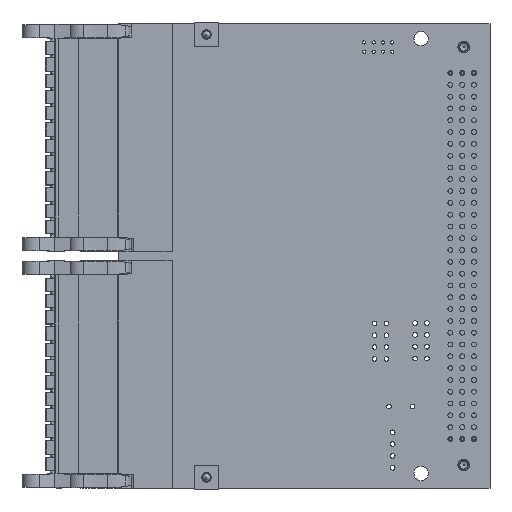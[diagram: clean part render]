
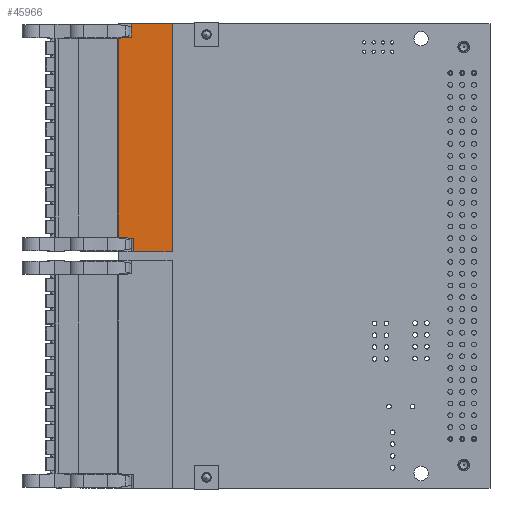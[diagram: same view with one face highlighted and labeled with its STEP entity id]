
A CAD part, top view. The second image highlights one B-rep face of the part: STEP entity #45966.
In plain terms, the highlighted planar face has unit normal (0, 0, 1).
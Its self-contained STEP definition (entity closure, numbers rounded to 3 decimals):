
#730 = ORIENTED_EDGE ( 'NONE', *, *, #1568, .T. ) ;
#1455 = VERTEX_POINT ( 'NONE', #12418 ) ;
#1568 = EDGE_CURVE ( 'NONE', #32402, #38106, #7299, .T. ) ;
#2464 = VERTEX_POINT ( 'NONE', #71715 ) ;
#2776 = VECTOR ( 'NONE', #71946, 1000. ) ;
#3896 = DIRECTION ( 'NONE',  ( 0.996, -0.087, 0. ) ) ;
#4434 = CARTESIAN_POINT ( 'NONE',  ( 3.3, 65.332, 12.4 ) ) ;
#5324 = VECTOR ( 'NONE', #28687, 1000. ) ;
#6519 = VECTOR ( 'NONE', #29115, 1000. ) ;
#6945 = CARTESIAN_POINT ( 'NONE',  ( 11.6, 50.954, 12.4 ) ) ;
#7299 = LINE ( 'NONE', #21867, #2776 ) ;
#7468 = VECTOR ( 'NONE', #68177, 1000. ) ;
#7613 = LINE ( 'NONE', #4434, #5324 ) ;
#8117 = CARTESIAN_POINT ( 'NONE',  ( -0.6, 99.954, 12.4 ) ) ;
#12418 = CARTESIAN_POINT ( 'NONE',  ( 11.6, 99.954, 12.4 ) ) ;
#18386 = CARTESIAN_POINT ( 'NONE',  ( 0., 54.054, 12.4 ) ) ;
#19114 = CARTESIAN_POINT ( 'NONE',  ( 3.3, 50.954, 12.4 ) ) ;
#19324 = EDGE_CURVE ( 'NONE', #69039, #76568, #89606, .T. ) ;
#19540 = CARTESIAN_POINT ( 'NONE',  ( 3.3, 53.765, 12.4 ) ) ;
#21867 = CARTESIAN_POINT ( 'NONE',  ( 2.8, 97.099, 12.4 ) ) ;
#24659 = ORIENTED_EDGE ( 'NONE', *, *, #33355, .T. ) ;
#25025 = DIRECTION ( 'NONE',  ( 0., -1., 0. ) ) ;
#25745 = LINE ( 'NONE', #8117, #6519 ) ;
#26396 = ORIENTED_EDGE ( 'NONE', *, *, #44087, .T. ) ;
#28687 = DIRECTION ( 'NONE',  ( 0., -1., 0. ) ) ;
#29115 = DIRECTION ( 'NONE',  ( -1., 0., 0. ) ) ;
#29621 = VECTOR ( 'NONE', #92610, 1000. ) ;
#30969 = EDGE_CURVE ( 'NONE', #1455, #2464, #25745, .T. ) ;
#31948 = CARTESIAN_POINT ( 'NONE',  ( 2.8, 65.332, 12.4 ) ) ;
#32402 = VERTEX_POINT ( 'NONE', #37822 ) ;
#32547 = ORIENTED_EDGE ( 'NONE', *, *, #66170, .T. ) ;
#33355 = EDGE_CURVE ( 'NONE', #76568, #38121, #7613, .T. ) ;
#36930 = LINE ( 'NONE', #38627, #40253 ) ;
#37822 = CARTESIAN_POINT ( 'NONE',  ( 2.8, 97.099, 12.4 ) ) ;
#38106 = VERTEX_POINT ( 'NONE', #75580 ) ;
#38121 = VERTEX_POINT ( 'NONE', #19114 ) ;
#38627 = CARTESIAN_POINT ( 'NONE',  ( 11.6, 65.332, 12.4 ) ) ;
#39476 = ORIENTED_EDGE ( 'NONE', *, *, #86967, .T. ) ;
#40253 = VECTOR ( 'NONE', #46742, 1000. ) ;
#44087 = EDGE_CURVE ( 'NONE', #38106, #69039, #58861, .T. ) ;
#44721 = ORIENTED_EDGE ( 'NONE', *, *, #30969, .T. ) ;
#45966 = ADVANCED_FACE ( 'NONE', ( #85310 ), #51107, .T. ) ;
#46742 = DIRECTION ( 'NONE',  ( 0., 1., 0. ) ) ;
#48760 = VECTOR ( 'NONE', #25025, 1000. ) ;
#51107 = PLANE ( 'NONE',  #90203 ) ;
#55802 = CARTESIAN_POINT ( 'NONE',  ( -0.6, 50.954, 12.4 ) ) ;
#56758 = EDGE_LOOP ( 'NONE', ( #730, #26396, #64157, #24659, #39476, #32547, #44721, #62142 ) ) ;
#57910 = VECTOR ( 'NONE', #3896, 1000. ) ;
#58861 = LINE ( 'NONE', #93544, #29621 ) ;
#59313 = DIRECTION ( 'NONE',  ( 0., 1., 0. ) ) ;
#60281 = CARTESIAN_POINT ( 'NONE',  ( 0., 54.054, 12.4 ) ) ;
#62142 = ORIENTED_EDGE ( 'NONE', *, *, #74891, .T. ) ;
#64157 = ORIENTED_EDGE ( 'NONE', *, *, #19324, .T. ) ;
#65653 = VERTEX_POINT ( 'NONE', #6945 ) ;
#66170 = EDGE_CURVE ( 'NONE', #65653, #1455, #36930, .T. ) ;
#67247 = LINE ( 'NONE', #55802, #7468 ) ;
#68177 = DIRECTION ( 'NONE',  ( 1., 0., 0. ) ) ;
#69039 = VERTEX_POINT ( 'NONE', #60281 ) ;
#71715 = CARTESIAN_POINT ( 'NONE',  ( 2.8, 99.954, 12.4 ) ) ;
#71946 = DIRECTION ( 'NONE',  ( -0.996, -0.087, 0. ) ) ;
#72881 = DIRECTION ( 'NONE',  ( 0., 0., 1. ) ) ;
#74891 = EDGE_CURVE ( 'NONE', #2464, #32402, #91740, .T. ) ;
#75580 = CARTESIAN_POINT ( 'NONE',  ( 0., 96.854, 12.4 ) ) ;
#76568 = VERTEX_POINT ( 'NONE', #19540 ) ;
#85310 = FACE_OUTER_BOUND ( 'NONE', #56758, .T. ) ;
#86967 = EDGE_CURVE ( 'NONE', #38121, #65653, #67247, .T. ) ;
#88385 = CARTESIAN_POINT ( 'NONE',  ( -0.6, 65.332, 12.4 ) ) ;
#89606 = LINE ( 'NONE', #18386, #57910 ) ;
#90203 = AXIS2_PLACEMENT_3D ( 'NONE', #88385, #72881, #59313 ) ;
#91740 = LINE ( 'NONE', #31948, #48760 ) ;
#92610 = DIRECTION ( 'NONE',  ( 0., -1., 0. ) ) ;
#93544 = CARTESIAN_POINT ( 'NONE',  ( 0., 65.332, 12.4 ) ) ;
